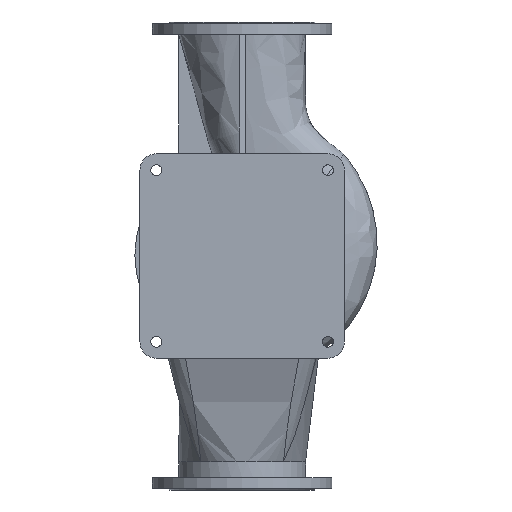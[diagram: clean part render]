
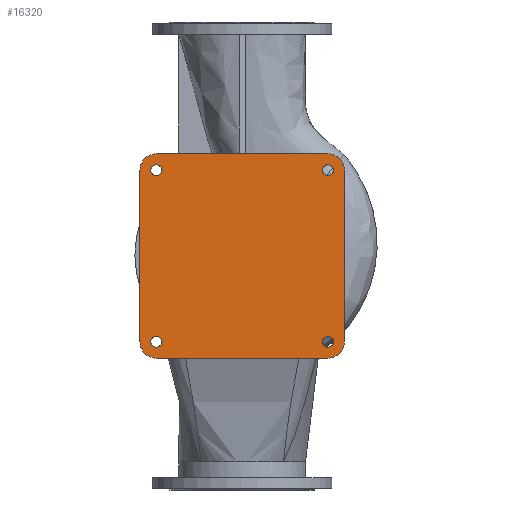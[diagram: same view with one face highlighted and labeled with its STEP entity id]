
A CAD part, front view. The second image highlights one B-rep face of the part: STEP entity #16320.
In plain terms, the highlighted planar face has unit normal (0, -1, 0).
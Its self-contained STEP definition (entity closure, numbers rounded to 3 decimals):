
#51 = CARTESIAN_POINT ( 'NONE',  ( 220., -285., 206. ) ) ;
#58 = AXIS2_PLACEMENT_3D ( 'NONE', #17978, #1348, #1527 ) ;
#99 = CIRCLE ( 'NONE', #28460, 14. ) ;
#158 = DIRECTION ( 'NONE',  ( 0., 0., 1. ) ) ;
#563 = CARTESIAN_POINT ( 'NONE',  ( 220., -285., 262. ) ) ;
#865 = DIRECTION ( 'NONE',  ( 0., 0., -1. ) ) ;
#1214 = EDGE_CURVE ( 'NONE', #27119, #25131, #99, .T. ) ;
#1348 = DIRECTION ( 'NONE',  ( 0., 1., 0. ) ) ;
#1488 = DIRECTION ( 'NONE',  ( 0., 0., -1. ) ) ;
#1527 = DIRECTION ( 'NONE',  ( 0., 0., 1. ) ) ;
#1655 = VERTEX_POINT ( 'NONE', #15142 ) ;
#1884 = AXIS2_PLACEMENT_3D ( 'NONE', #29284, #32617, #32799 ) ;
#2168 = ORIENTED_EDGE ( 'NONE', *, *, #17791, .T. ) ;
#2447 = VERTEX_POINT ( 'NONE', #22450 ) ;
#2697 = ORIENTED_EDGE ( 'NONE', *, *, #24049, .T. ) ;
#2746 = AXIS2_PLACEMENT_3D ( 'NONE', #6691, #15204, #15380 ) ;
#3242 = AXIS2_PLACEMENT_3D ( 'NONE', #34359, #8815, #158 ) ;
#3520 = LINE ( 'NONE', #563, #35009 ) ;
#3737 = ORIENTED_EDGE ( 'NONE', *, *, #1214, .T. ) ;
#3844 = DIRECTION ( 'NONE',  ( 0., 0., 1. ) ) ;
#4210 = EDGE_CURVE ( 'NONE', #25131, #27119, #7488, .T. ) ;
#4515 = ORIENTED_EDGE ( 'NONE', *, *, #24510, .F. ) ;
#4954 = VERTEX_POINT ( 'NONE', #13314 ) ;
#5045 = DIRECTION ( 'NONE',  ( 0., 1., 0. ) ) ;
#5252 = CIRCLE ( 'NONE', #18851, 42. ) ;
#5494 = EDGE_LOOP ( 'NONE', ( #29699, #8723 ) ) ;
#5903 = VECTOR ( 'NONE', #28275, 1000. ) ;
#6051 = AXIS2_PLACEMENT_3D ( 'NONE', #29743, #32519, #3844 ) ;
#6392 = FACE_OUTER_BOUND ( 'NONE', #31157, .T. ) ;
#6691 = CARTESIAN_POINT ( 'NONE',  ( -220., -285., 220. ) ) ;
#6884 = VECTOR ( 'NONE', #30656, 1000. ) ;
#7225 = DIRECTION ( 'NONE',  ( 0., 1., 0. ) ) ;
#7227 = VERTEX_POINT ( 'NONE', #28736 ) ;
#7406 = DIRECTION ( 'NONE',  ( 0., 0., -1. ) ) ;
#7488 = CIRCLE ( 'NONE', #20181, 14. ) ;
#7649 = AXIS2_PLACEMENT_3D ( 'NONE', #25098, #31390, #22321 ) ;
#7948 = ORIENTED_EDGE ( 'NONE', *, *, #19782, .F. ) ;
#8668 = LINE ( 'NONE', #34209, #5903 ) ;
#8723 = ORIENTED_EDGE ( 'NONE', *, *, #14301, .T. ) ;
#8815 = DIRECTION ( 'NONE',  ( 0., 1., 0. ) ) ;
#8909 = DIRECTION ( 'NONE',  ( 0., 1., 0. ) ) ;
#9750 = CIRCLE ( 'NONE', #3242, 14. ) ;
#10063 = ORIENTED_EDGE ( 'NONE', *, *, #23687, .F. ) ;
#10195 = ORIENTED_EDGE ( 'NONE', *, *, #14946, .F. ) ;
#10857 = CARTESIAN_POINT ( 'NONE',  ( 220., -285., -220. ) ) ;
#11154 = EDGE_CURVE ( 'NONE', #21861, #4954, #12696, .T. ) ;
#11309 = CARTESIAN_POINT ( 'NONE',  ( 220., -285., -220. ) ) ;
#11750 = EDGE_LOOP ( 'NONE', ( #21000, #29266 ) ) ;
#12696 = CIRCLE ( 'NONE', #34575, 14. ) ;
#12745 = CARTESIAN_POINT ( 'NONE',  ( -220., -285., -206. ) ) ;
#13314 = CARTESIAN_POINT ( 'NONE',  ( 220., -285., 234. ) ) ;
#13384 = CARTESIAN_POINT ( 'NONE',  ( -262., -285., -220. ) ) ;
#13609 = CARTESIAN_POINT ( 'NONE',  ( -262., -285., -220. ) ) ;
#13992 = DIRECTION ( 'NONE',  ( 0., 1., 0. ) ) ;
#14301 = EDGE_CURVE ( 'NONE', #4954, #21861, #9750, .T. ) ;
#14339 = VERTEX_POINT ( 'NONE', #18974 ) ;
#14509 = VECTOR ( 'NONE', #30420, 1000. ) ;
#14516 = ORIENTED_EDGE ( 'NONE', *, *, #35404, .F. ) ;
#14692 = VERTEX_POINT ( 'NONE', #29696 ) ;
#14919 = CARTESIAN_POINT ( 'NONE',  ( 220., -285., -220. ) ) ;
#14946 = EDGE_CURVE ( 'NONE', #30534, #30645, #30063, .T. ) ;
#15142 = CARTESIAN_POINT ( 'NONE',  ( 220., -285., 262. ) ) ;
#15150 = ORIENTED_EDGE ( 'NONE', *, *, #4210, .T. ) ;
#15204 = DIRECTION ( 'NONE',  ( 0., 1., 0. ) ) ;
#15225 = DIRECTION ( 'NONE',  ( 0., 1., 0. ) ) ;
#15380 = DIRECTION ( 'NONE',  ( 0., 0., 1. ) ) ;
#15537 = CARTESIAN_POINT ( 'NONE',  ( -220., -285., -220. ) ) ;
#15692 = ORIENTED_EDGE ( 'NONE', *, *, #21884, .F. ) ;
#15930 = CIRCLE ( 'NONE', #7649, 14. ) ;
#16320 = ADVANCED_FACE ( 'NONE', ( #20824, #17126, #6392, #17678, #28970 ), #34160, .T. ) ;
#17126 = FACE_BOUND ( 'NONE', #26244, .T. ) ;
#17678 = FACE_BOUND ( 'NONE', #5494, .T. ) ;
#17791 = EDGE_CURVE ( 'NONE', #14339, #24106, #36425, .T. ) ;
#17978 = CARTESIAN_POINT ( 'NONE',  ( -220., -285., -220. ) ) ;
#18385 = AXIS2_PLACEMENT_3D ( 'NONE', #31682, #8909, #22780 ) ;
#18458 = CARTESIAN_POINT ( 'NONE',  ( 220., -285., -262. ) ) ;
#18851 = AXIS2_PLACEMENT_3D ( 'NONE', #36261, #7225, #7406 ) ;
#18974 = CARTESIAN_POINT ( 'NONE',  ( -220., -285., 234. ) ) ;
#19539 = DIRECTION ( 'NONE',  ( 0., 0., 1. ) ) ;
#19782 = EDGE_CURVE ( 'NONE', #14692, #30534, #5252, .T. ) ;
#19882 = VERTEX_POINT ( 'NONE', #31437 ) ;
#20181 = AXIS2_PLACEMENT_3D ( 'NONE', #10857, #13992, #19539 ) ;
#20203 = EDGE_CURVE ( 'NONE', #23662, #33758, #15930, .T. ) ;
#20824 = FACE_BOUND ( 'NONE', #35808, .T. ) ;
#21000 = ORIENTED_EDGE ( 'NONE', *, *, #22009, .T. ) ;
#21538 = CARTESIAN_POINT ( 'NONE',  ( -220., -285., -262. ) ) ;
#21861 = VERTEX_POINT ( 'NONE', #51 ) ;
#21884 = EDGE_CURVE ( 'NONE', #1655, #19882, #32577, .T. ) ;
#21992 = CIRCLE ( 'NONE', #31463, 42. ) ;
#22009 = EDGE_CURVE ( 'NONE', #33758, #23662, #31964, .T. ) ;
#22126 = LINE ( 'NONE', #13609, #6884 ) ;
#22321 = DIRECTION ( 'NONE',  ( 0., 0., 1. ) ) ;
#22450 = CARTESIAN_POINT ( 'NONE',  ( -220., -285., 262. ) ) ;
#22780 = DIRECTION ( 'NONE',  ( 0., 0., -1. ) ) ;
#23539 = EDGE_CURVE ( 'NONE', #2447, #1655, #3520, .T. ) ;
#23662 = VERTEX_POINT ( 'NONE', #12745 ) ;
#23687 = EDGE_CURVE ( 'NONE', #30645, #27992, #21992, .T. ) ;
#24049 = EDGE_CURVE ( 'NONE', #24106, #14339, #29112, .T. ) ;
#24106 = VERTEX_POINT ( 'NONE', #26952 ) ;
#24510 = EDGE_CURVE ( 'NONE', #7227, #2447, #28444, .T. ) ;
#25098 = CARTESIAN_POINT ( 'NONE',  ( -220., -285., -220. ) ) ;
#25131 = VERTEX_POINT ( 'NONE', #35740 ) ;
#25662 = CARTESIAN_POINT ( 'NONE',  ( 220., -285., -234. ) ) ;
#26197 = DIRECTION ( 'NONE',  ( 0., -1., 0. ) ) ;
#26233 = CARTESIAN_POINT ( 'NONE',  ( -220., -285., -234. ) ) ;
#26244 = EDGE_LOOP ( 'NONE', ( #3737, #15150 ) ) ;
#26952 = CARTESIAN_POINT ( 'NONE',  ( -220., -285., 206. ) ) ;
#27119 = VERTEX_POINT ( 'NONE', #25662 ) ;
#27603 = DIRECTION ( 'NONE',  ( 0., 0., 1. ) ) ;
#27992 = VERTEX_POINT ( 'NONE', #13384 ) ;
#28275 = DIRECTION ( 'NONE',  ( 0., 0., -1. ) ) ;
#28444 = CIRCLE ( 'NONE', #1884, 42. ) ;
#28460 = AXIS2_PLACEMENT_3D ( 'NONE', #11309, #5045, #27603 ) ;
#28736 = CARTESIAN_POINT ( 'NONE',  ( -262., -285., 220. ) ) ;
#28970 = FACE_BOUND ( 'NONE', #11750, .T. ) ;
#28973 = EDGE_CURVE ( 'NONE', #27992, #7227, #22126, .T. ) ;
#29112 = CIRCLE ( 'NONE', #6051, 14. ) ;
#29266 = ORIENTED_EDGE ( 'NONE', *, *, #20203, .T. ) ;
#29284 = CARTESIAN_POINT ( 'NONE',  ( -220., -285., 220. ) ) ;
#29469 = CARTESIAN_POINT ( 'NONE',  ( 220., -285., 220. ) ) ;
#29696 = CARTESIAN_POINT ( 'NONE',  ( 262., -285., -220. ) ) ;
#29699 = ORIENTED_EDGE ( 'NONE', *, *, #11154, .T. ) ;
#29743 = CARTESIAN_POINT ( 'NONE',  ( -220., -285., 220. ) ) ;
#29856 = AXIS2_PLACEMENT_3D ( 'NONE', #14919, #26197, #865 ) ;
#30063 = LINE ( 'NONE', #21538, #14509 ) ;
#30294 = CARTESIAN_POINT ( 'NONE',  ( -220., -285., -262. ) ) ;
#30420 = DIRECTION ( 'NONE',  ( -1., 0., 0. ) ) ;
#30509 = ORIENTED_EDGE ( 'NONE', *, *, #23539, .F. ) ;
#30534 = VERTEX_POINT ( 'NONE', #18458 ) ;
#30645 = VERTEX_POINT ( 'NONE', #30294 ) ;
#30656 = DIRECTION ( 'NONE',  ( 0., 0., 1. ) ) ;
#31157 = EDGE_LOOP ( 'NONE', ( #7948, #14516, #15692, #30509, #4515, #35794, #10063, #10195 ) ) ;
#31390 = DIRECTION ( 'NONE',  ( 0., 1., 0. ) ) ;
#31437 = CARTESIAN_POINT ( 'NONE',  ( 262., -285., 220. ) ) ;
#31463 = AXIS2_PLACEMENT_3D ( 'NONE', #15537, #34972, #1488 ) ;
#31682 = CARTESIAN_POINT ( 'NONE',  ( 220., -285., 220. ) ) ;
#31835 = DIRECTION ( 'NONE',  ( 1., 0., 0. ) ) ;
#31964 = CIRCLE ( 'NONE', #58, 14. ) ;
#32519 = DIRECTION ( 'NONE',  ( 0., 1., 0. ) ) ;
#32577 = CIRCLE ( 'NONE', #18385, 42. ) ;
#32617 = DIRECTION ( 'NONE',  ( 0., 1., 0. ) ) ;
#32799 = DIRECTION ( 'NONE',  ( 0., 0., -1. ) ) ;
#33758 = VERTEX_POINT ( 'NONE', #26233 ) ;
#34160 = PLANE ( 'NONE',  #29856 ) ;
#34209 = CARTESIAN_POINT ( 'NONE',  ( 262., -285., -220. ) ) ;
#34359 = CARTESIAN_POINT ( 'NONE',  ( 220., -285., 220. ) ) ;
#34575 = AXIS2_PLACEMENT_3D ( 'NONE', #29469, #15225, #35029 ) ;
#34972 = DIRECTION ( 'NONE',  ( 0., 1., 0. ) ) ;
#35009 = VECTOR ( 'NONE', #31835, 1000. ) ;
#35029 = DIRECTION ( 'NONE',  ( 0., 0., 1. ) ) ;
#35404 = EDGE_CURVE ( 'NONE', #19882, #14692, #8668, .T. ) ;
#35740 = CARTESIAN_POINT ( 'NONE',  ( 220., -285., -206. ) ) ;
#35794 = ORIENTED_EDGE ( 'NONE', *, *, #28973, .F. ) ;
#35808 = EDGE_LOOP ( 'NONE', ( #2697, #2168 ) ) ;
#36261 = CARTESIAN_POINT ( 'NONE',  ( 220., -285., -220. ) ) ;
#36425 = CIRCLE ( 'NONE', #2746, 14. ) ;
